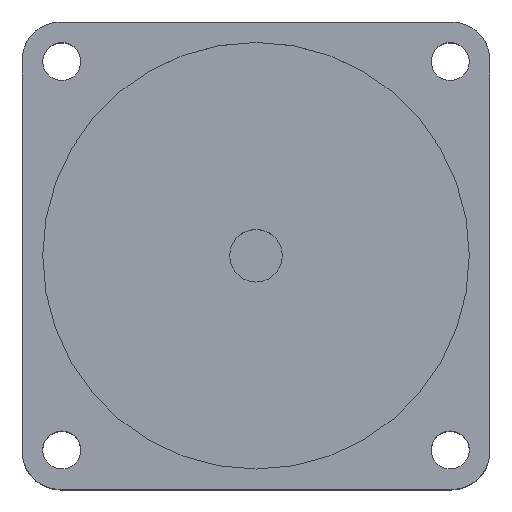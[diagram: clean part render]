
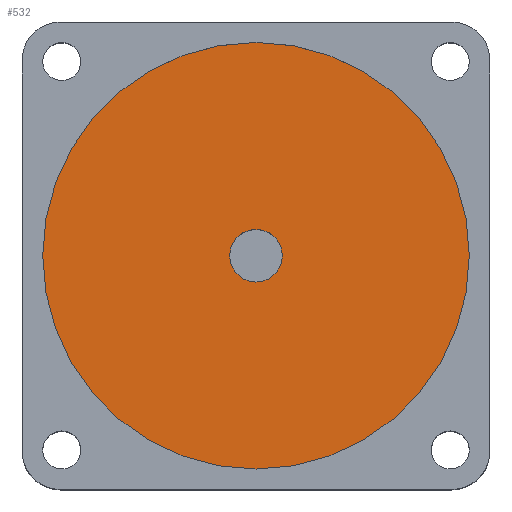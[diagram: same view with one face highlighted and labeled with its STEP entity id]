
A CAD part, top view. The second image highlights one B-rep face of the part: STEP entity #532.
In plain terms, the highlighted planar face has unit normal (0, 0, 1).
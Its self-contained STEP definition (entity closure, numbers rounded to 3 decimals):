
#7 = EDGE_CURVE ( 'NONE', #571, #555, #1159, .T. ) ;
#8 = CARTESIAN_POINT ( 'NONE',  ( 0., 0., -2. ) ) ;
#43 = CARTESIAN_POINT ( 'NONE',  ( -4.5, 0., -2. ) ) ;
#53 = CARTESIAN_POINT ( 'NONE',  ( 4.5, 0., -2. ) ) ;
#191 = DIRECTION ( 'NONE',  ( 1., 0., 0. ) ) ;
#271 = DIRECTION ( 'NONE',  ( 0., 0., 1. ) ) ;
#273 = CARTESIAN_POINT ( 'NONE',  ( -36.5, 0., -2. ) ) ;
#397 = ORIENTED_EDGE ( 'NONE', *, *, #1174, .T. ) ;
#409 = FACE_OUTER_BOUND ( 'NONE', #1418, .T. ) ;
#532 = ADVANCED_FACE ( 'NONE', ( #409, #1471 ), #631, .T. ) ;
#555 = VERTEX_POINT ( 'NONE', #43 ) ;
#571 = VERTEX_POINT ( 'NONE', #53 ) ;
#576 = ORIENTED_EDGE ( 'NONE', *, *, #1445, .T. ) ;
#631 = PLANE ( 'NONE',  #851 ) ;
#652 = AXIS2_PLACEMENT_3D ( 'NONE', #8, #271, #1212 ) ;
#692 = DIRECTION ( 'NONE',  ( 0., 0., -1. ) ) ;
#736 = CIRCLE ( 'NONE', #1002, 36.5 ) ;
#741 = CARTESIAN_POINT ( 'NONE',  ( 0., 0., -2. ) ) ;
#764 = DIRECTION ( 'NONE',  ( 1., 0., 0. ) ) ;
#768 = DIRECTION ( 'NONE',  ( 0., 0., 1. ) ) ;
#788 = DIRECTION ( 'NONE',  ( 1., 0., 0. ) ) ;
#847 = CARTESIAN_POINT ( 'NONE',  ( 0., 0., -2. ) ) ;
#851 = AXIS2_PLACEMENT_3D ( 'NONE', #741, #885, #764 ) ;
#877 = CARTESIAN_POINT ( 'NONE',  ( 0., 0., -2. ) ) ;
#885 = DIRECTION ( 'NONE',  ( 0., 0., 1. ) ) ;
#898 = AXIS2_PLACEMENT_3D ( 'NONE', #1398, #692, #788 ) ;
#899 = VERTEX_POINT ( 'NONE', #273 ) ;
#1002 = AXIS2_PLACEMENT_3D ( 'NONE', #877, #768, #191 ) ;
#1028 = AXIS2_PLACEMENT_3D ( 'NONE', #847, #1330, #1085 ) ;
#1054 = EDGE_LOOP ( 'NONE', ( #1283, #576 ) ) ;
#1076 = CARTESIAN_POINT ( 'NONE',  ( 36.5, 0., -2. ) ) ;
#1085 = DIRECTION ( 'NONE',  ( 1., 0., 0. ) ) ;
#1120 = VERTEX_POINT ( 'NONE', #1076 ) ;
#1131 = CIRCLE ( 'NONE', #652, 36.5 ) ;
#1159 = CIRCLE ( 'NONE', #1028, 4.5 ) ;
#1174 = EDGE_CURVE ( 'NONE', #899, #1120, #1131, .T. ) ;
#1212 = DIRECTION ( 'NONE',  ( 1., 0., 0. ) ) ;
#1213 = CIRCLE ( 'NONE', #898, 4.5 ) ;
#1283 = ORIENTED_EDGE ( 'NONE', *, *, #7, .T. ) ;
#1315 = ORIENTED_EDGE ( 'NONE', *, *, #1316, .T. ) ;
#1316 = EDGE_CURVE ( 'NONE', #1120, #899, #736, .T. ) ;
#1330 = DIRECTION ( 'NONE',  ( 0., 0., -1. ) ) ;
#1398 = CARTESIAN_POINT ( 'NONE',  ( 0., 0., -2. ) ) ;
#1418 = EDGE_LOOP ( 'NONE', ( #1315, #397 ) ) ;
#1445 = EDGE_CURVE ( 'NONE', #555, #571, #1213, .T. ) ;
#1471 = FACE_BOUND ( 'NONE', #1054, .T. ) ;
